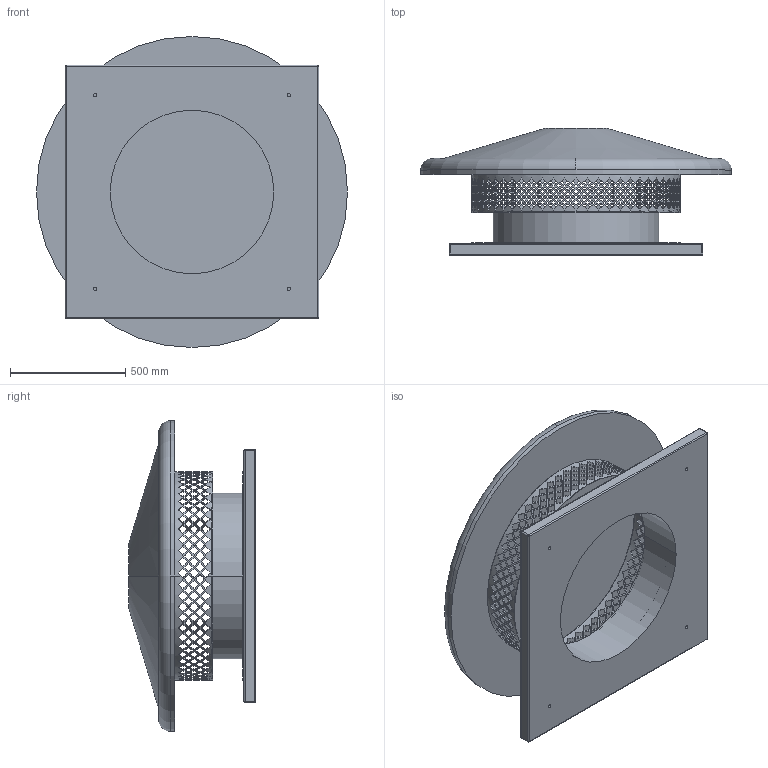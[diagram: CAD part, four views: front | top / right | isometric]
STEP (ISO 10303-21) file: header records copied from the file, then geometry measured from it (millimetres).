
FILE_DESCRIPTION(('STEP AP214'),'1');
FILE_NAME('fan_5113428600.stp','2017-03-31T12:41:48',('TraceParts'),('TraceParts S.A.'),'Spatial InterOp 3D',' ',' ');
FILE_SCHEMA(('automotive_design'));
Length unit declared in the file: millimetre
Products named in the file (1): fan_5113428600
Bounding box: 1350 x 551 x 1350 mm (x, y, z)
Volume: 200501856 mm3; surface area: 6684981.6 mm2
Topology: 1 solids, 1 shells, 1199 faces, 3616 edges, 2398 vertices
Faces by surface type: plane 1153, cylinder 32, sphere 8, torus 4, cone 2
Entity records: 52792 total; most frequent: DIRECTION 8410, ORIENTED_EDGE 7216, CARTESIAN_POINT 7206, EDGE_CURVE 3608, AXIS2_PLACEMENT_3D 3602, VERTEX_POINT 2398, ELLIPSE 2320, EDGE_LOOP 1764
